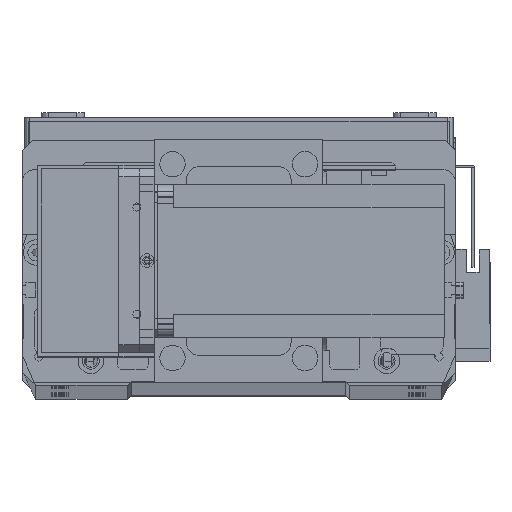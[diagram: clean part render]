
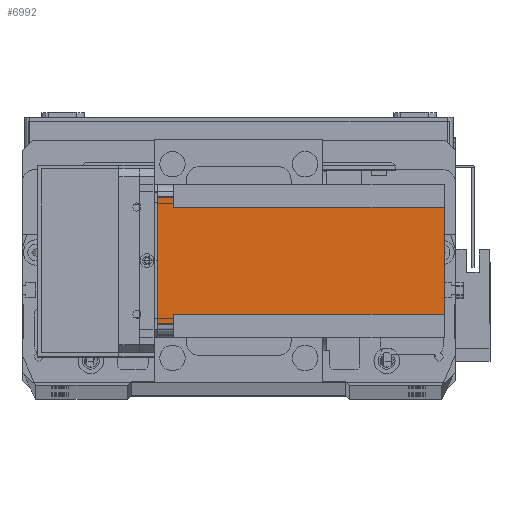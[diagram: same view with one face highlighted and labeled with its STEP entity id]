
A CAD part, top view. The second image highlights one B-rep face of the part: STEP entity #6992.
In plain terms, the highlighted planar face has unit normal (0, 0, 1) as drawn and (-1, 0, 0) by its records, which use the part's own axes.
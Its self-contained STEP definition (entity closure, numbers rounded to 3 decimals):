
#123 = EDGE_CURVE ( 'NONE', #4727, #5577, #32279, .T. ) ;
#469 = LINE ( 'NONE', #33765, #6826 ) ;
#1259 = VECTOR ( 'NONE', #18540, 1000. ) ;
#1389 = VERTEX_POINT ( 'NONE', #1675 ) ;
#1483 = EDGE_CURVE ( 'NONE', #9851, #18702, #28366, .T. ) ;
#1634 = VECTOR ( 'NONE', #13210, 1000. ) ;
#1675 = CARTESIAN_POINT ( 'NONE',  ( 0., 55., -6.5 ) ) ;
#2399 = CARTESIAN_POINT ( 'NONE',  ( 0., 55., -112.5 ) ) ;
#2442 = DIRECTION ( 'NONE',  ( 0., 0., 1. ) ) ;
#2929 = EDGE_CURVE ( 'NONE', #28403, #1389, #29976, .T. ) ;
#3162 = ORIENTED_EDGE ( 'NONE', *, *, #2929, .T. ) ;
#3165 = EDGE_LOOP ( 'NONE', ( #3459, #12910, #29675, #3162, #8782, #26802, #14116, #3857 ) ) ;
#3459 = ORIENTED_EDGE ( 'NONE', *, *, #1483, .F. ) ;
#3541 = EDGE_CURVE ( 'NONE', #18702, #5577, #23148, .T. ) ;
#3857 = ORIENTED_EDGE ( 'NONE', *, *, #3541, .F. ) ;
#3912 = CARTESIAN_POINT ( 'NONE',  ( 0., 51., -112.5 ) ) ;
#3929 = DIRECTION ( 'NONE',  ( 0., 1., 0. ) ) ;
#4727 = VERTEX_POINT ( 'NONE', #3912 ) ;
#5171 = VECTOR ( 'NONE', #32739, 1000. ) ;
#5577 = VERTEX_POINT ( 'NONE', #15923 ) ;
#6372 = CARTESIAN_POINT ( 'NONE',  ( 0., 9., -6.5 ) ) ;
#6826 = VECTOR ( 'NONE', #17582, 1000. ) ;
#6991 = DIRECTION ( 'NONE',  ( 0., -1., 0. ) ) ;
#6992 = ADVANCED_FACE ( 'NONE', ( #15567 ), #25251, .T. ) ;
#7643 = EDGE_CURVE ( 'NONE', #9851, #13214, #12128, .T. ) ;
#8544 = CARTESIAN_POINT ( 'NONE',  ( 0., 0., 0. ) ) ;
#8782 = ORIENTED_EDGE ( 'NONE', *, *, #19886, .F. ) ;
#9658 = CARTESIAN_POINT ( 'NONE',  ( 0., 5., 0. ) ) ;
#9851 = VERTEX_POINT ( 'NONE', #23196 ) ;
#10182 = CARTESIAN_POINT ( 'NONE',  ( 0., 0., -112.5 ) ) ;
#10930 = AXIS2_PLACEMENT_3D ( 'NONE', #19830, #27979, #11825 ) ;
#11825 = DIRECTION ( 'NONE',  ( 0., -1., 0. ) ) ;
#12128 = LINE ( 'NONE', #18578, #18433 ) ;
#12910 = ORIENTED_EDGE ( 'NONE', *, *, #7643, .T. ) ;
#13210 = DIRECTION ( 'NONE',  ( 0., 0., -1. ) ) ;
#13214 = VERTEX_POINT ( 'NONE', #9658 ) ;
#14022 = VECTOR ( 'NONE', #34848, 1000. ) ;
#14116 = ORIENTED_EDGE ( 'NONE', *, *, #123, .T. ) ;
#15567 = FACE_OUTER_BOUND ( 'NONE', #3165, .T. ) ;
#15923 = CARTESIAN_POINT ( 'NONE',  ( 0., 9., -112.5 ) ) ;
#17582 = DIRECTION ( 'NONE',  ( 0., 0., 1. ) ) ;
#17975 = CARTESIAN_POINT ( 'NONE',  ( 0., 51., -6.5 ) ) ;
#18433 = VECTOR ( 'NONE', #2442, 1000. ) ;
#18540 = DIRECTION ( 'NONE',  ( 0., 0., -1. ) ) ;
#18578 = CARTESIAN_POINT ( 'NONE',  ( 0., 5., -112.5 ) ) ;
#18702 = VERTEX_POINT ( 'NONE', #6372 ) ;
#19077 = LINE ( 'NONE', #20082, #33481 ) ;
#19830 = CARTESIAN_POINT ( 'NONE',  ( 0., 0., -112.5 ) ) ;
#19886 = EDGE_CURVE ( 'NONE', #29457, #1389, #19077, .T. ) ;
#20082 = CARTESIAN_POINT ( 'NONE',  ( 0., 60., -6.5 ) ) ;
#20604 = EDGE_CURVE ( 'NONE', #4727, #29457, #469, .T. ) ;
#23148 = LINE ( 'NONE', #26640, #1634 ) ;
#23196 = CARTESIAN_POINT ( 'NONE',  ( 0., 5., -6.5 ) ) ;
#23653 = CARTESIAN_POINT ( 'NONE',  ( 0., 55., 0. ) ) ;
#24223 = VECTOR ( 'NONE', #6991, 1000. ) ;
#25251 = PLANE ( 'NONE',  #10930 ) ;
#26640 = CARTESIAN_POINT ( 'NONE',  ( 0., 9., -112.5 ) ) ;
#26705 = LINE ( 'NONE', #8544, #5171 ) ;
#26802 = ORIENTED_EDGE ( 'NONE', *, *, #20604, .F. ) ;
#27979 = DIRECTION ( 'NONE',  ( -1., 0., 0. ) ) ;
#28366 = LINE ( 'NONE', #29403, #14022 ) ;
#28403 = VERTEX_POINT ( 'NONE', #23653 ) ;
#29403 = CARTESIAN_POINT ( 'NONE',  ( 0., 0., -6.5 ) ) ;
#29457 = VERTEX_POINT ( 'NONE', #17975 ) ;
#29675 = ORIENTED_EDGE ( 'NONE', *, *, #31422, .F. ) ;
#29976 = LINE ( 'NONE', #2399, #1259 ) ;
#31422 = EDGE_CURVE ( 'NONE', #28403, #13214, #26705, .T. ) ;
#32279 = LINE ( 'NONE', #10182, #24223 ) ;
#32739 = DIRECTION ( 'NONE',  ( 0., -1., 0. ) ) ;
#33481 = VECTOR ( 'NONE', #3929, 1000. ) ;
#33765 = CARTESIAN_POINT ( 'NONE',  ( 0., 51., -112.5 ) ) ;
#34848 = DIRECTION ( 'NONE',  ( 0., 1., 0. ) ) ;
